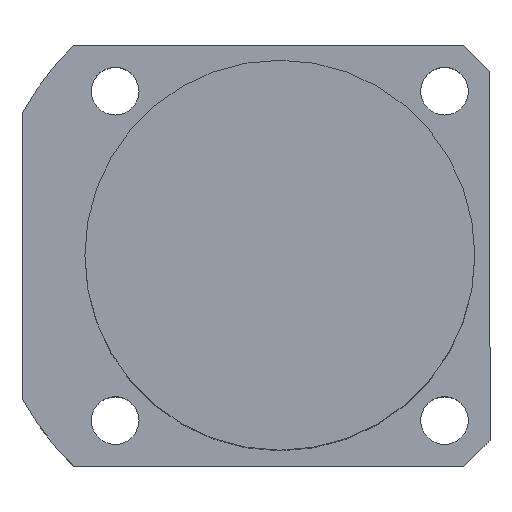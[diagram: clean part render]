
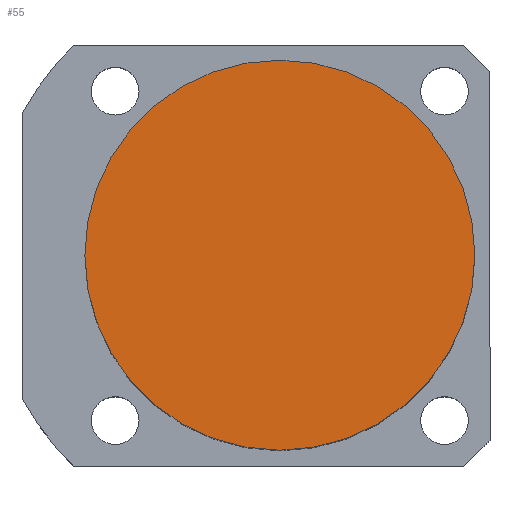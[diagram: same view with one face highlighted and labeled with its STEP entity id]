
A CAD part, top view. The second image highlights one B-rep face of the part: STEP entity #55.
In plain terms, the highlighted planar face has unit normal (0, 0, 1).
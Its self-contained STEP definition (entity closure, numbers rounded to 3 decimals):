
#55 = ADVANCED_FACE ( 'NONE', ( #1782 ), #134, .T. ) ;
#134 = PLANE ( 'NONE',  #1637 ) ;
#248 = ORIENTED_EDGE ( 'NONE', *, *, #1299, .T. ) ;
#261 = DIRECTION ( 'NONE',  ( 1., 0., 0. ) ) ;
#362 = DIRECTION ( 'NONE',  ( 0., 0., 1. ) ) ;
#554 = CARTESIAN_POINT ( 'NONE',  ( 0., 0., 104.5 ) ) ;
#627 = AXIS2_PLACEMENT_3D ( 'NONE', #1291, #362, #691 ) ;
#691 = DIRECTION ( 'NONE',  ( 1., 0., 0. ) ) ;
#715 = DIRECTION ( 'NONE',  ( 0., 0., 1. ) ) ;
#765 = CIRCLE ( 'NONE', #1900, 45. ) ;
#910 = VERTEX_POINT ( 'NONE', #1049 ) ;
#935 = VERTEX_POINT ( 'NONE', #1927 ) ;
#938 = EDGE_LOOP ( 'NONE', ( #248, #1034 ) ) ;
#1034 = ORIENTED_EDGE ( 'NONE', *, *, #1452, .T. ) ;
#1036 = DIRECTION ( 'NONE',  ( 0., 0., 1. ) ) ;
#1049 = CARTESIAN_POINT ( 'NONE',  ( -45., 0., 104.5 ) ) ;
#1071 = CIRCLE ( 'NONE', #627, 45. ) ;
#1190 = DIRECTION ( 'NONE',  ( 1., 0., 0. ) ) ;
#1291 = CARTESIAN_POINT ( 'NONE',  ( 0., 0., 104.5 ) ) ;
#1299 = EDGE_CURVE ( 'NONE', #910, #935, #1071, .T. ) ;
#1452 = EDGE_CURVE ( 'NONE', #935, #910, #765, .T. ) ;
#1637 = AXIS2_PLACEMENT_3D ( 'NONE', #1902, #1036, #261 ) ;
#1782 = FACE_OUTER_BOUND ( 'NONE', #938, .T. ) ;
#1900 = AXIS2_PLACEMENT_3D ( 'NONE', #554, #715, #1190 ) ;
#1902 = CARTESIAN_POINT ( 'NONE',  ( 0., 0., 104.5 ) ) ;
#1927 = CARTESIAN_POINT ( 'NONE',  ( 45., 0., 104.5 ) ) ;
